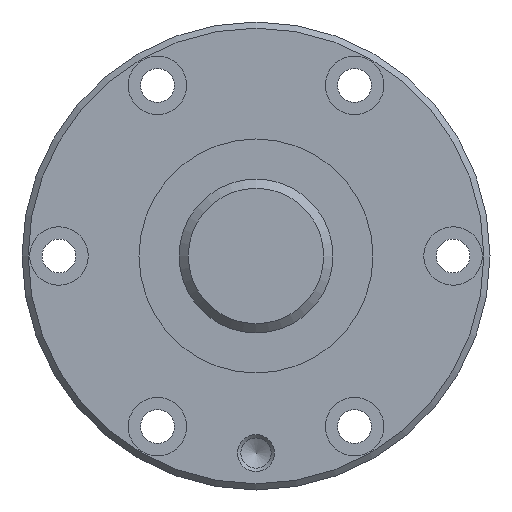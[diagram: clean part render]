
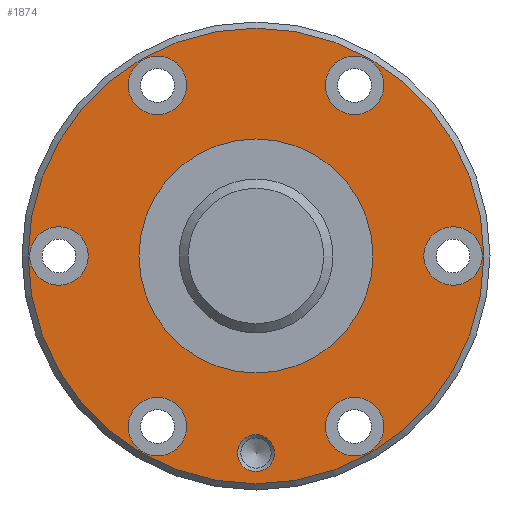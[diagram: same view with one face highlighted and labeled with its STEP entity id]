
A CAD part, left-side view. The second image highlights one B-rep face of the part: STEP entity #1874.
In plain terms, the highlighted planar face has unit normal (-1, 0, 0).
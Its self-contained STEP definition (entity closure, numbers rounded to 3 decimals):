
#452=ORIENTED_EDGE('',*,*,#936,.T.);
#453=ORIENTED_EDGE('',*,*,#937,.T.);
#454=ORIENTED_EDGE('',*,*,#938,.T.);
#455=ORIENTED_EDGE('',*,*,#939,.T.);
#456=ORIENTED_EDGE('',*,*,#940,.T.);
#457=ORIENTED_EDGE('',*,*,#941,.T.);
#458=ORIENTED_EDGE('',*,*,#942,.T.);
#459=ORIENTED_EDGE('',*,*,#943,.T.);
#460=ORIENTED_EDGE('',*,*,#944,.F.);
#936=EDGE_CURVE('',#1179,#1179,#1337,.T.);
#937=EDGE_CURVE('',#1180,#1180,#1338,.T.);
#938=EDGE_CURVE('',#1181,#1181,#1339,.T.);
#939=EDGE_CURVE('',#1182,#1182,#1340,.T.);
#940=EDGE_CURVE('',#1183,#1183,#1341,.T.);
#941=EDGE_CURVE('',#1184,#1184,#1342,.T.);
#942=EDGE_CURVE('',#1185,#1185,#1343,.T.);
#943=EDGE_CURVE('',#1186,#1186,#1344,.T.);
#944=EDGE_CURVE('',#1187,#1187,#1345,.T.);
#1179=VERTEX_POINT('',#2947);
#1180=VERTEX_POINT('',#2949);
#1181=VERTEX_POINT('',#2951);
#1182=VERTEX_POINT('',#2953);
#1183=VERTEX_POINT('',#2955);
#1184=VERTEX_POINT('',#2957);
#1185=VERTEX_POINT('',#2959);
#1186=VERTEX_POINT('',#2961);
#1187=VERTEX_POINT('',#2963);
#1337=CIRCLE('',#2032,19.);
#1338=CIRCLE('',#2033,4.75);
#1339=CIRCLE('',#2034,4.75);
#1340=CIRCLE('',#2035,3.);
#1341=CIRCLE('',#2036,4.75);
#1342=CIRCLE('',#2037,4.75);
#1343=CIRCLE('',#2038,4.75);
#1344=CIRCLE('',#2039,4.75);
#1345=CIRCLE('',#2040,37.);
#1433=EDGE_LOOP('',(#452));
#1434=EDGE_LOOP('',(#453));
#1435=EDGE_LOOP('',(#454));
#1436=EDGE_LOOP('',(#455));
#1437=EDGE_LOOP('',(#456));
#1438=EDGE_LOOP('',(#457));
#1439=EDGE_LOOP('',(#458));
#1440=EDGE_LOOP('',(#459));
#1441=EDGE_LOOP('',(#460));
#1621=FACE_BOUND('',#1433,.T.);
#1622=FACE_BOUND('',#1434,.T.);
#1623=FACE_BOUND('',#1435,.T.);
#1624=FACE_BOUND('',#1436,.T.);
#1625=FACE_BOUND('',#1437,.T.);
#1626=FACE_BOUND('',#1438,.T.);
#1627=FACE_BOUND('',#1439,.T.);
#1628=FACE_BOUND('',#1440,.T.);
#1629=FACE_BOUND('',#1441,.T.);
#1800=PLANE('',#2031);
#1874=ADVANCED_FACE('',(#1621,#1622,#1623,#1624,#1625,#1626,#1627,#1628,
#1629),#1800,.T.);
#2031=AXIS2_PLACEMENT_3D('',#2945,#2296,#2297);
#2032=AXIS2_PLACEMENT_3D('',#2946,#2298,#2299);
#2033=AXIS2_PLACEMENT_3D('',#2948,#2300,#2301);
#2034=AXIS2_PLACEMENT_3D('',#2950,#2302,#2303);
#2035=AXIS2_PLACEMENT_3D('',#2952,#2304,#2305);
#2036=AXIS2_PLACEMENT_3D('',#2954,#2306,#2307);
#2037=AXIS2_PLACEMENT_3D('',#2956,#2308,#2309);
#2038=AXIS2_PLACEMENT_3D('',#2958,#2310,#2311);
#2039=AXIS2_PLACEMENT_3D('',#2960,#2312,#2313);
#2040=AXIS2_PLACEMENT_3D('',#2962,#2314,#2315);
#2296=DIRECTION('',(-1.,0.,0.));
#2297=DIRECTION('',(0.,0.,1.));
#2298=DIRECTION('',(1.,0.,0.));
#2299=DIRECTION('',(0.,0.,-1.));
#2300=DIRECTION('',(1.,0.,0.));
#2301=DIRECTION('',(0.,0.,-1.));
#2302=DIRECTION('',(1.,0.,0.));
#2303=DIRECTION('',(0.,0.,-1.));
#2304=DIRECTION('',(1.,0.,0.));
#2305=DIRECTION('',(0.,0.,-1.));
#2306=DIRECTION('',(1.,0.,0.));
#2307=DIRECTION('',(0.,0.,-1.));
#2308=DIRECTION('',(1.,0.,0.));
#2309=DIRECTION('',(0.,0.,-1.));
#2310=DIRECTION('',(1.,0.,0.));
#2311=DIRECTION('',(0.,0.,-1.));
#2312=DIRECTION('',(1.,0.,0.));
#2313=DIRECTION('',(0.,0.,-1.));
#2314=DIRECTION('',(1.,0.,0.));
#2315=DIRECTION('',(0.,0.,-1.));
#2945=CARTESIAN_POINT('',(0.,37.,0.));
#2946=CARTESIAN_POINT('',(0.,0.,0.));
#2947=CARTESIAN_POINT('',(0.,0.,-19.));
#2948=CARTESIAN_POINT('',(0.,-27.713,-16.));
#2949=CARTESIAN_POINT('',(0.,-27.713,-20.75));
#2950=CARTESIAN_POINT('',(0.,27.713,16.));
#2951=CARTESIAN_POINT('',(0.,27.713,11.25));
#2952=CARTESIAN_POINT('',(0.,-32.,0.));
#2953=CARTESIAN_POINT('',(0.,-32.,-3.));
#2954=CARTESIAN_POINT('',(0.,0.,32.));
#2955=CARTESIAN_POINT('',(0.,0.,27.25));
#2956=CARTESIAN_POINT('',(0.,-27.713,16.));
#2957=CARTESIAN_POINT('',(0.,-27.713,11.25));
#2958=CARTESIAN_POINT('',(0.,0.,-32.));
#2959=CARTESIAN_POINT('',(0.,0.,-36.75));
#2960=CARTESIAN_POINT('',(0.,27.713,-16.));
#2961=CARTESIAN_POINT('',(0.,27.713,-20.75));
#2962=CARTESIAN_POINT('',(0.,0.,0.));
#2963=CARTESIAN_POINT('',(0.,0.,-37.));
